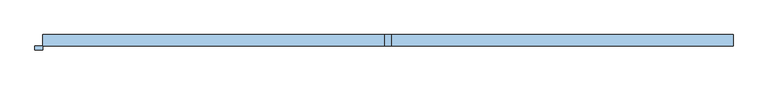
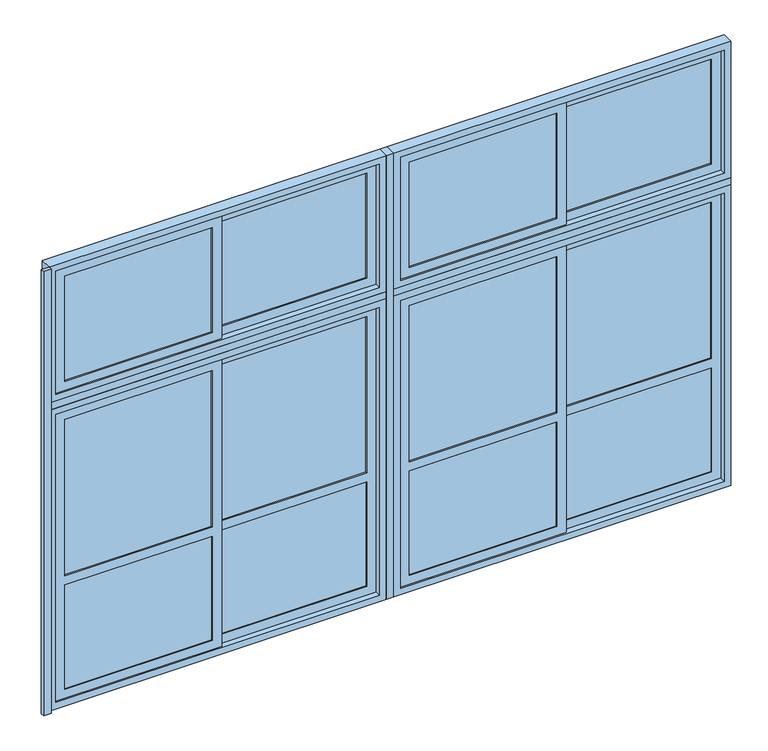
"""IFC4 building model written with IfcOpenShell, lengths in millimetres: window geometry, A11 Ventana_Corrediza_PC_4 hojas : A11.2 Ventana_Corrediza_PAl_4 hojas 450x310."""

from ifc_helpers import new_model, si_unit, frame, origin, origin_with_axes, place, context, project, spatial, polyline, outline, extrude, source, transform, mapped, element, save


def window_f495a0c8(model_context):
    return source(origin(), model_context, "Body", "SweptSolid", [
        extrude(outline(polyline([(-1169.0, 28.0), (-2142.0, 28.0), (-2142.0, 44.0), (-1169.0, 44.0), (-1169.0, 28.0)])), frame((0.0, 0.0, 108.0), z_axis=(0.0, 0.0, 1.0), x_axis=(1.0, 0.0, 0.0)), (0.0, 0.0, 1.0), 728.0),
        extrude(outline(polyline([(-133.0, 56.0), (-1106.0, 56.0), (-1106.0, 72.0), (-133.0, 72.0), (-133.0, 56.0)])), frame((0.0, 0.0, 108.0), z_axis=(0.0, 0.0, 1.0), x_axis=(1.0, 0.0, 0.0)), (0.0, 0.0, 1.0), 728.0),
        extrude(outline(polyline([(-1169.0, 31.5769719), (-2142.0, 31.5769719), (-2142.0, 40.4230281), (-1169.0, 40.4230281), (-1169.0, 31.5769719)])), frame((0.0, 0.0, 2258.0), z_axis=(0.0, 0.0, 1.0), x_axis=(1.0, 0.0, 0.0)), (0.0, 0.0, 1.0), 734.0),
        extrude(outline(polyline([(-1169.0, 31.5769719), (-2142.0, 31.5769719), (-2142.0, 40.4230281), (-1169.0, 40.4230281), (-1169.0, 31.5769719)])), frame((0.0, 0.0, 900.0), z_axis=(0.0, 0.0, 1.0), x_axis=(1.0, 0.0, 0.0)), (0.0, 0.0, 1.0), 1092.0),
        extrude(outline(polyline([(-133.0, 59.5769719), (-1106.0, 59.5769719), (-1106.0, 68.4230281), (-133.0, 68.4230281), (-133.0, 59.5769719)])), frame((0.0, 0.0, 2258.0), z_axis=(0.0, 0.0, 1.0), x_axis=(1.0, 0.0, 0.0)), (0.0, 0.0, 1.0), 734.0),
        extrude(outline(polyline([(-133.0, 59.5769719), (-1106.0, 59.5769719), (-1106.0, 68.4230281), (-133.0, 68.4230281), (-133.0, 59.5769719)])), frame((0.0, 0.0, 900.0), z_axis=(0.0, 0.0, 1.0), x_axis=(1.0, 0.0, 0.0)), (0.0, 0.0, 1.0), 1092.0),
        extrude(outline(polyline([(3055.0, -2205.0), (2195.0, -2205.0), (2195.0, -1106.0), (3055.0, -1106.0), (3055.0, -2205.0)]), holes=[polyline([(2992.0, -2142.0), (2992.0, -1169.0), (2258.0, -1169.0), (2258.0, -2142.0), (2992.0, -2142.0)])]), frame((0.0, 22.0, 0.0), z_axis=(0.0, 1.0, 0.0), x_axis=(0.0, 0.0, 1.0)), (0.0, 0.0, 1.0), 28.0),
        extrude(outline(polyline([(2055.0, -2205.0), (45.0, -2205.0), (45.0, -1106.0), (2055.0, -1106.0), (2055.0, -2205.0)]), holes=[polyline([(1992.0, -2142.0), (1992.0, -1169.0), (900.0, -1169.0), (900.0, -2142.0), (1992.0, -2142.0)]), polyline([(836.0, -2142.0), (836.0, -1169.0), (108.0, -1169.0), (108.0, -2142.0), (836.0, -2142.0)])]), frame((0.0, 22.0, 0.0), z_axis=(0.0, 1.0, 0.0), x_axis=(0.0, 0.0, 1.0)), (0.0, 0.0, 1.0), 28.0),
        extrude(outline(polyline([(3055.0, -1169.0), (2195.0, -1169.0), (2195.0, -70.0), (3055.0, -70.0), (3055.0, -1169.0)]), holes=[polyline([(2992.0, -1106.0), (2992.0, -133.0), (2258.0, -133.0), (2258.0, -1106.0), (2992.0, -1106.0)])]), frame((0.0, 50.0, 0.0), z_axis=(0.0, 1.0, 0.0), x_axis=(0.0, 0.0, 1.0)), (0.0, 0.0, 1.0), 28.0),
        extrude(outline(polyline([(2055.0, -1169.0), (45.0, -1169.0), (45.0, -70.0), (2055.0, -70.0), (2055.0, -1169.0)]), holes=[polyline([(1992.0, -1106.0), (1992.0, -133.0), (900.0, -133.0), (900.0, -1106.0), (1992.0, -1106.0)]), polyline([(836.0, -1106.0), (836.0, -133.0), (108.0, -133.0), (108.0, -1106.0), (836.0, -1106.0)])]), frame((0.0, 50.0, 0.0), z_axis=(0.0, 1.0, 0.0), x_axis=(0.0, 0.0, 1.0)), (0.0, 0.0, 1.0), 28.0),
        extrude(outline(polyline([(1106.0, 28.0), (133.0, 28.0), (133.0, 44.0), (1106.0, 44.0), (1106.0, 28.0)])), frame((0.0, 0.0, 108.0), z_axis=(0.0, 0.0, 1.0), x_axis=(1.0, 0.0, 0.0)), (0.0, 0.0, 1.0), 728.0),
        extrude(outline(polyline([(2142.0, 56.0), (1169.0, 56.0), (1169.0, 72.0), (2142.0, 72.0), (2142.0, 56.0)])), frame((0.0, 0.0, 108.0), z_axis=(0.0, 0.0, 1.0), x_axis=(1.0, 0.0, 0.0)), (0.0, 0.0, 1.0), 728.0),
        extrude(outline(polyline([(1106.0, 31.5769719), (133.0, 31.5769719), (133.0, 40.4230281), (1106.0, 40.4230281), (1106.0, 31.5769719)])), frame((0.0, 0.0, 2258.0), z_axis=(0.0, 0.0, 1.0), x_axis=(1.0, 0.0, 0.0)), (0.0, 0.0, 1.0), 734.0),
        extrude(outline(polyline([(1106.0, 31.5769719), (133.0, 31.5769719), (133.0, 40.4230281), (1106.0, 40.4230281), (1106.0, 31.5769719)])), frame((0.0, 0.0, 900.0), z_axis=(0.0, 0.0, 1.0), x_axis=(1.0, 0.0, 0.0)), (0.0, 0.0, 1.0), 1092.0),
        extrude(outline(polyline([(2142.0, 59.5769719), (1169.0, 59.5769719), (1169.0, 68.4230281), (2142.0, 68.4230281), (2142.0, 59.5769719)])), frame((0.0, 0.0, 2258.0), z_axis=(0.0, 0.0, 1.0), x_axis=(1.0, 0.0, 0.0)), (0.0, 0.0, 1.0), 734.0),
        extrude(outline(polyline([(2142.0, 59.5769719), (1169.0, 59.5769719), (1169.0, 68.4230281), (2142.0, 68.4230281), (2142.0, 59.5769719)])), frame((0.0, 0.0, 900.0), z_axis=(0.0, 0.0, 1.0), x_axis=(1.0, 0.0, 0.0)), (0.0, 0.0, 1.0), 1092.0),
        extrude(outline(polyline([(45.0, 70.0), (45.0, 1169.0), (2055.0, 1169.0), (2055.0, 70.0), (45.0, 70.0)]), holes=[polyline([(900.0, 133.0), (1992.0, 133.0), (1992.0, 1106.0), (900.0, 1106.0), (900.0, 133.0)]), polyline([(108.0, 133.0), (836.0, 133.0), (836.0, 1106.0), (108.0, 1106.0), (108.0, 133.0)])]), frame((0.0, 22.0, 0.0), z_axis=(0.0, 1.0, 0.0), x_axis=(0.0, 0.0, 1.0)), (0.0, 0.0, 1.0), 28.0),
        extrude(outline(polyline([(3055.0, 70.0), (2195.0, 70.0), (2195.0, 1169.0), (3055.0, 1169.0), (3055.0, 70.0)]), holes=[polyline([(2258.0, 133.0), (2992.0, 133.0), (2992.0, 1106.0), (2258.0, 1106.0), (2258.0, 133.0)])]), frame((0.0, 22.0, 0.0), z_axis=(0.0, 1.0, 0.0), x_axis=(0.0, 0.0, 1.0)), (0.0, 0.0, 1.0), 28.0),
        extrude(outline(polyline([(2055.0, 2205.0), (2055.0, 1106.0), (45.0, 1106.0), (45.0, 2205.0), (2055.0, 2205.0)]), holes=[polyline([(1992.0, 1169.0), (1992.0, 2142.0), (900.0, 2142.0), (900.0, 1169.0), (1992.0, 1169.0)]), polyline([(836.0, 1169.0), (836.0, 2142.0), (108.0, 2142.0), (108.0, 1169.0), (836.0, 1169.0)])]), frame((0.0, 50.0, 0.0), z_axis=(0.0, 1.0, 0.0), x_axis=(0.0, 0.0, 1.0)), (0.0, 0.0, 1.0), 28.0),
        extrude(outline(polyline([(2195.0, 1106.0), (2195.0, 2205.0), (3055.0, 2205.0), (3055.0, 1106.0), (2195.0, 1106.0)]), holes=[polyline([(2992.0, 1169.0), (2992.0, 2142.0), (2258.0, 2142.0), (2258.0, 1169.0), (2992.0, 1169.0)])]), frame((0.0, 50.0, 0.0), z_axis=(0.0, 1.0, 0.0), x_axis=(0.0, 0.0, 1.0)), (0.0, 0.0, 1.0), 28.0),
        extrude(outline(polyline([(2100.0, 25.0), (0.0, 25.0), (0.0, 2250.0), (2100.0, 2250.0), (2100.0, 25.0)]), holes=[polyline([(2055.0, 70.0), (2055.0, 2205.0), (45.0, 2205.0), (45.0, 70.0), (2055.0, 70.0)])]), frame((0.0, 12.5, 0.0), z_axis=(0.0, 1.0, 0.0), x_axis=(0.0, 0.0, 1.0)), (0.0, 0.0, 1.0), 75.0),
        extrude(outline(polyline([(2100.0, -2250.0), (0.0, -2250.0), (0.0, -25.0), (2100.0, -25.0), (2100.0, -2250.0)]), holes=[polyline([(2055.0, -2205.0), (2055.0, -70.0), (45.0, -70.0), (45.0, -2205.0), (2055.0, -2205.0)])]), frame((0.0, 12.5, 0.0), z_axis=(0.0, 1.0, 0.0), x_axis=(0.0, 0.0, 1.0)), (0.0, 0.0, 1.0), 75.0),
        extrude(outline(polyline([(3100.0, 25.0), (2150.0, 25.0), (2150.0, 2250.0), (3100.0, 2250.0), (3100.0, 25.0)]), holes=[polyline([(3055.0, 70.0), (3055.0, 2205.0), (2195.0, 2205.0), (2195.0, 70.0), (3055.0, 70.0)])]), frame((0.0, 12.5, 0.0), z_axis=(0.0, 1.0, 0.0), x_axis=(0.0, 0.0, 1.0)), (0.0, 0.0, 1.0), 75.0),
        extrude(outline(polyline([(2150.0, -2250.0), (2150.0, -25.0), (3100.0, -25.0), (3100.0, -2250.0), (2150.0, -2250.0)]), holes=[polyline([(3055.0, -2205.0), (3055.0, -70.0), (2195.0, -70.0), (2195.0, -2205.0), (3055.0, -2205.0)])]), frame((0.0, 12.5, 0.0), z_axis=(0.0, 1.0, 0.0), x_axis=(0.0, 0.0, 1.0)), (0.0, 0.0, 1.0), 75.0),
        extrude(outline(polyline([(2250.0, 12.5), (25.0, 12.5), (25.0, 87.5), (2250.0, 87.5), (2250.0, 12.5)])), frame((0.0, 0.0, 2100.0), z_axis=(0.0, 0.0, 1.0), x_axis=(1.0, 0.0, 0.0)), (0.0, 0.0, 1.0), 50.0),
        extrude(outline(polyline([(-25.0, 12.5), (-2250.0, 12.5), (-2250.0, 87.5), (-25.0, 87.5), (-25.0, 12.5)])), frame((0.0, 0.0, 2100.0), z_axis=(0.0, 0.0, 1.0), x_axis=(1.0, 0.0, 0.0)), (0.0, 0.0, 1.0), 50.0),
        extrude(outline(polyline([(25.0, 12.5), (-25.0, 12.5), (-25.0, 87.5), (25.0, 87.5), (25.0, 12.5)])), origin_with_axes(), (0.0, 0.0, 1.0), 3100.0),
        extrude(outline(polyline([(-2250.0, -12.5), (-2300.0, -12.5), (-2300.0, 12.5), (-2250.0, 12.5), (-2250.0, -12.5)])), origin_with_axes(), (0.0, 0.0, 1.0), 3100.0),
    ])


if __name__ == "__main__":
    model = new_model("IFC4")
    model_context = context("Model", 3, world=origin())
    ifc_project = project(units=[si_unit("LENGTHUNIT", "METRE", prefix="MILLI")], contexts=[model_context])
    site = spatial("IfcSite", under=ifc_project)
    building = spatial("IfcBuilding", under=site)
    placement = place(None, origin())
    window_shape = window_f495a0c8(model_context)
    element("IfcWindow", 1, ObjectType="A11 Ventana_Corrediza_PC_4 hojas : A11.2 Ventana_Corrediza_PAl_4 hojas 450x310", at=placement, inside=building, context=model_context, shape_type="MappedRepresentation", body=[
        mapped(window_shape, transform((0.0, 0.0, 0.0), x_axis=(1.0, 0.0, 0.0), y_axis=(0.0, 1.0, 0.0), z_axis=(0.0, 0.0, 1.0))),
    ])
    save(model, "model.ifc")
